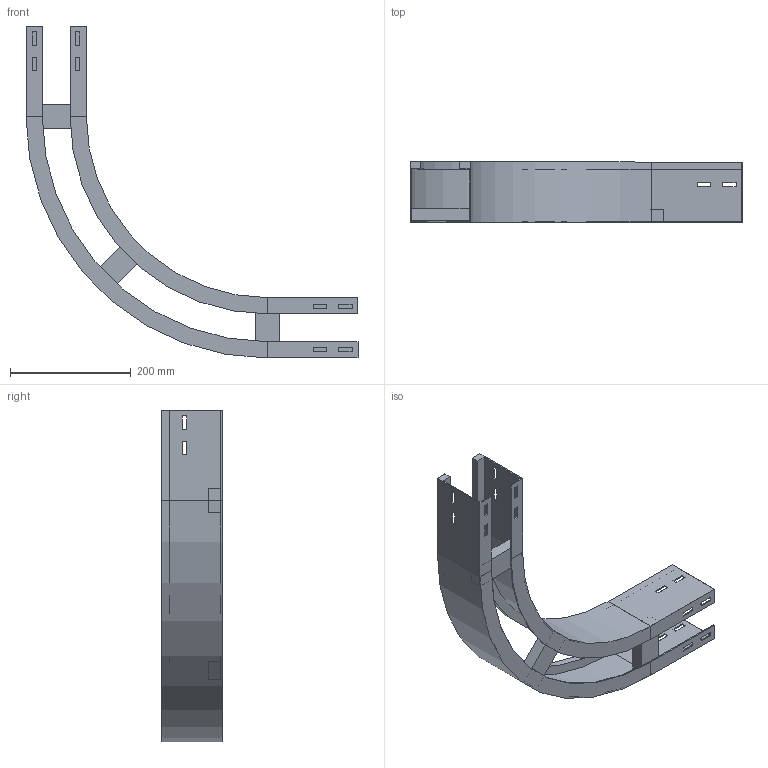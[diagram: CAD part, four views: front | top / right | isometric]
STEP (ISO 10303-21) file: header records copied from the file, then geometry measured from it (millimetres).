
FILE_DESCRIPTION (( 'STEP AP214' ), '1' );
FILE_NAME ('A2_10B3D100.step', '2025-02-21T15:22:44', ( '' ), ( '' ), 'SwSTEP 2.0', 'SolidWorks 2023', '' );
FILE_SCHEMA (( 'AUTOMOTIVE_DESIGN' ));
Length unit declared in the file: millimetre
Products named in the file (4): TRAVERSINO_100; A2_LONGH.INTERNO 90°_H100_R300; A2_LONGH.ESTERNO 90°_H100_R300+100; A2_10B3D100
Assembly tree (5 placements, depth 2):
  A2_10B3D100
    A2_LONGH.INTERNO 90°_H100_R300
    A2_LONGH.ESTERNO 90°_H100_R300+100
    TRAVERSINO_100  x3
Bounding box: 550 x 100 x 550 mm (x, y, z)
Volume: 979556.4 mm3; surface area: 524477.4 mm2
Topology: 5 solids, 5 shells, 134 faces, 340 edges, 216 vertices
Faces by surface type: plane 126, cylinder 8
Entity records: 3821 total; most frequent: CARTESIAN_POINT 646, ORIENTED_EDGE 632, DIRECTION 592, EDGE_CURVE 316, VECTOR 300, LINE 300, VERTEX_POINT 200, EDGE_LOOP 154
